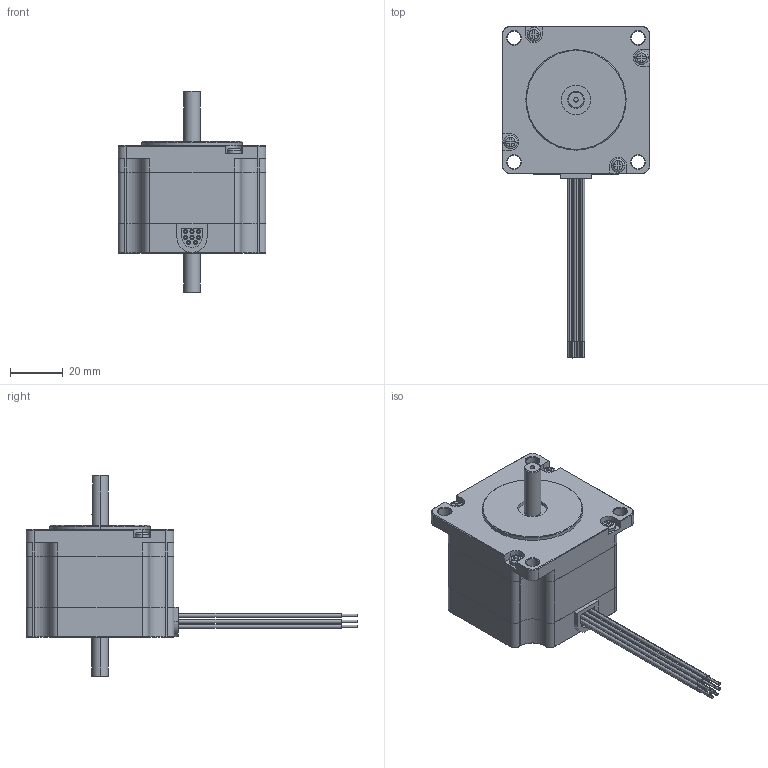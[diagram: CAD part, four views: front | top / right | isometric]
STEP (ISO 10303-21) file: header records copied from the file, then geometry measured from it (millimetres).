
FILE_DESCRIPTION (( 'STEP AP214' ), '1' );
FILE_NAME ('23Y002D-LW8.STEP', '2010-06-11T15:21:02', ( 'Tim Raines' ), ( 'Anaheim Automation' ), 'SwSTEP 2.0', 'SolidWorks 2010', '' );
FILE_SCHEMA (( 'AUTOMOTIVE_DESIGN' ));
Length unit declared in the file: inch
Products named in the file (1): 23Y002D-LW8
Bounding box: 56.13 x 125.98 x 76.56 mm (x, y, z)
Volume: 119412.5 mm3; surface area: 19265.4 mm2
Topology: 1 solids, 1 shells, 348 faces, 858 edges, 540 vertices
Faces by surface type: plane 164, cylinder 121, cone 55, torus 8
Entity records: 14746 total; most frequent: DIRECTION 1845, CARTESIAN_POINT 1741, ORIENTED_EDGE 1692, EDGE_CURVE 846, AXIS2_PLACEMENT_3D 652, LINE 541, VECTOR 541, VERTEX_POINT 540
